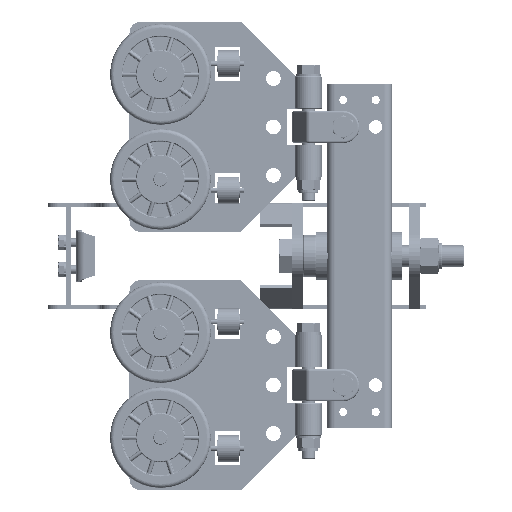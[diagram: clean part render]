
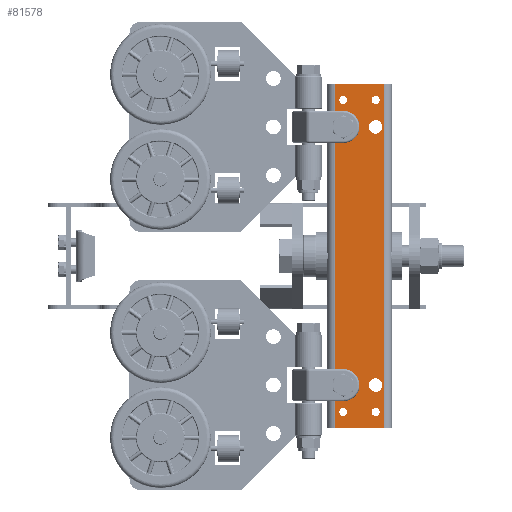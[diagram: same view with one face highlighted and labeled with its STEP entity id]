
A CAD part, left-side view. The second image highlights one B-rep face of the part: STEP entity #81578.
In plain terms, the highlighted planar face has unit normal (-1, 0, 0).
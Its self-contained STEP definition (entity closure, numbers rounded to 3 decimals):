
#8032=FACE_BOUND('',#100443,.T.);
#8033=FACE_BOUND('',#100444,.T.);
#8034=FACE_BOUND('',#100445,.T.);
#8035=FACE_BOUND('',#100446,.T.);
#8036=FACE_BOUND('',#100447,.T.);
#8037=FACE_BOUND('',#100448,.T.);
#8038=FACE_BOUND('',#100449,.T.);
#8039=FACE_BOUND('',#100450,.T.);
#8040=FACE_BOUND('',#100451,.T.);
#73268=PLANE('',#196100);
#81578=ADVANCED_FACE('',(#8032,#8033,#8034,#8035,#8036,#8037,#8038,#8039,
#8040),#73268,.F.);
#100443=EDGE_LOOP('',(#143300));
#100444=EDGE_LOOP('',(#143301));
#100445=EDGE_LOOP('',(#143302));
#100446=EDGE_LOOP('',(#143303));
#100447=EDGE_LOOP('',(#143304));
#100448=EDGE_LOOP('',(#143305));
#100449=EDGE_LOOP('',(#143306));
#100450=EDGE_LOOP('',(#143307));
#100451=EDGE_LOOP('',(#143308,#143309,#143310,#143311));
#104200=LINE('',#350190,#107984);
#104204=LINE('',#350207,#107988);
#104211=LINE('',#350242,#107995);
#104217=LINE('',#350299,#108001);
#107984=VECTOR('',#228299,1.);
#107988=VECTOR('',#228315,1.);
#107995=VECTOR('',#228338,1.);
#108001=VECTOR('',#228376,1.);
#143300=ORIENTED_EDGE('',*,*,#172992,.F.);
#143301=ORIENTED_EDGE('',*,*,#172993,.F.);
#143302=ORIENTED_EDGE('',*,*,#172994,.F.);
#143303=ORIENTED_EDGE('',*,*,#172995,.F.);
#143304=ORIENTED_EDGE('',*,*,#172996,.T.);
#143305=ORIENTED_EDGE('',*,*,#172997,.T.);
#143306=ORIENTED_EDGE('',*,*,#172998,.T.);
#143307=ORIENTED_EDGE('',*,*,#172999,.T.);
#143308=ORIENTED_EDGE('',*,*,#172957,.T.);
#143309=ORIENTED_EDGE('',*,*,#172972,.F.);
#143310=ORIENTED_EDGE('',*,*,#172948,.F.);
#143311=ORIENTED_EDGE('',*,*,#172991,.T.);
#155022=VERTEX_POINT('',#350179);
#155027=VERTEX_POINT('',#350189);
#155034=VERTEX_POINT('',#350206);
#155035=VERTEX_POINT('',#350208);
#155058=VERTEX_POINT('',#350302);
#155059=VERTEX_POINT('',#350304);
#155060=VERTEX_POINT('',#350306);
#155061=VERTEX_POINT('',#350308);
#155062=VERTEX_POINT('',#350310);
#155063=VERTEX_POINT('',#350312);
#155064=VERTEX_POINT('',#350314);
#155065=VERTEX_POINT('',#350316);
#172948=EDGE_CURVE('',#155027,#155022,#104200,.T.);
#172957=EDGE_CURVE('',#155035,#155034,#104204,.T.);
#172972=EDGE_CURVE('',#155022,#155034,#104211,.T.);
#172991=EDGE_CURVE('',#155027,#155035,#104217,.T.);
#172992=EDGE_CURVE('',#155058,#155058,#181632,.T.);
#172993=EDGE_CURVE('',#155059,#155059,#181633,.T.);
#172994=EDGE_CURVE('',#155060,#155060,#181634,.T.);
#172995=EDGE_CURVE('',#155061,#155061,#181635,.T.);
#172996=EDGE_CURVE('',#155062,#155062,#181636,.T.);
#172997=EDGE_CURVE('',#155063,#155063,#181637,.T.);
#172998=EDGE_CURVE('',#155064,#155064,#181638,.T.);
#172999=EDGE_CURVE('',#155065,#155065,#181639,.T.);
#181632=CIRCLE('',#196092,4.763);
#181633=CIRCLE('',#196093,4.763);
#181634=CIRCLE('',#196094,7.938);
#181635=CIRCLE('',#196095,7.938);
#181636=CIRCLE('',#196096,4.763);
#181637=CIRCLE('',#196097,4.763);
#181638=CIRCLE('',#196098,7.938);
#181639=CIRCLE('',#196099,7.938);
#196092=AXIS2_PLACEMENT_3D('',#350301,#228379,#228380);
#196093=AXIS2_PLACEMENT_3D('',#350303,#228381,#228382);
#196094=AXIS2_PLACEMENT_3D('',#350305,#228383,#228384);
#196095=AXIS2_PLACEMENT_3D('',#350307,#228385,#228386);
#196096=AXIS2_PLACEMENT_3D('',#350309,#228387,#228388);
#196097=AXIS2_PLACEMENT_3D('',#350311,#228389,#228390);
#196098=AXIS2_PLACEMENT_3D('',#350313,#228391,#228392);
#196099=AXIS2_PLACEMENT_3D('',#350315,#228393,#228394);
#196100=AXIS2_PLACEMENT_3D('',#350317,#228395,#228396);
#228299=DIRECTION('',(0.,-1.,0.));
#228315=DIRECTION('',(0.,-1.,0.));
#228338=DIRECTION('',(0.,0.,-1.));
#228376=DIRECTION('',(0.,0.,-1.));
#228379=DIRECTION('',(-1.,0.,0.));
#228380=DIRECTION('',(0.,0.,-1.));
#228381=DIRECTION('',(-1.,0.,0.));
#228382=DIRECTION('',(0.,0.,-1.));
#228383=DIRECTION('',(-1.,0.,0.));
#228384=DIRECTION('',(0.,0.,-1.));
#228385=DIRECTION('',(-1.,0.,0.));
#228386=DIRECTION('',(0.,0.,-1.));
#228387=DIRECTION('',(1.,0.,0.));
#228388=DIRECTION('',(0.,0.,-1.));
#228389=DIRECTION('',(1.,0.,0.));
#228390=DIRECTION('',(0.,0.,-1.));
#228391=DIRECTION('',(1.,0.,0.));
#228392=DIRECTION('',(0.,0.,-1.));
#228393=DIRECTION('',(1.,0.,0.));
#228394=DIRECTION('',(0.,0.,-1.));
#228395=DIRECTION('',(1.,0.,0.));
#228396=DIRECTION('',(0.,0.,-1.));
#350179=CARTESIAN_POINT('',(-93.663,-101.6,203.2));
#350189=CARTESIAN_POINT('',(-93.663,-44.45,203.2));
#350190=CARTESIAN_POINT('',(-93.663,-101.6,203.2));
#350206=CARTESIAN_POINT('',(-93.663,-101.6,-203.2));
#350207=CARTESIAN_POINT('',(-93.663,-101.6,-203.2));
#350208=CARTESIAN_POINT('',(-93.663,-44.45,-203.2));
#350242=CARTESIAN_POINT('',(-93.663,-101.6,203.2));
#350299=CARTESIAN_POINT('',(-93.663,-44.45,203.2));
#350301=CARTESIAN_POINT('',(-93.663,-92.075,-184.15));
#350302=CARTESIAN_POINT('',(-93.663,-92.075,-188.913));
#350303=CARTESIAN_POINT('',(-93.663,-92.075,184.15));
#350304=CARTESIAN_POINT('',(-93.663,-92.075,179.388));
#350305=CARTESIAN_POINT('',(-93.663,-92.075,-152.4));
#350306=CARTESIAN_POINT('',(-93.663,-92.075,-160.338));
#350307=CARTESIAN_POINT('',(-93.663,-92.075,152.4));
#350308=CARTESIAN_POINT('',(-93.663,-92.075,144.463));
#350309=CARTESIAN_POINT('',(-93.663,-53.975,-184.15));
#350310=CARTESIAN_POINT('',(-93.663,-53.975,-188.913));
#350311=CARTESIAN_POINT('',(-93.663,-53.975,184.15));
#350312=CARTESIAN_POINT('',(-93.663,-53.975,179.388));
#350313=CARTESIAN_POINT('',(-93.663,-53.975,-152.4));
#350314=CARTESIAN_POINT('',(-93.663,-53.975,-160.338));
#350315=CARTESIAN_POINT('',(-93.663,-53.975,152.4));
#350316=CARTESIAN_POINT('',(-93.663,-53.975,144.463));
#350317=CARTESIAN_POINT('',(-93.663,-101.6,203.2));
